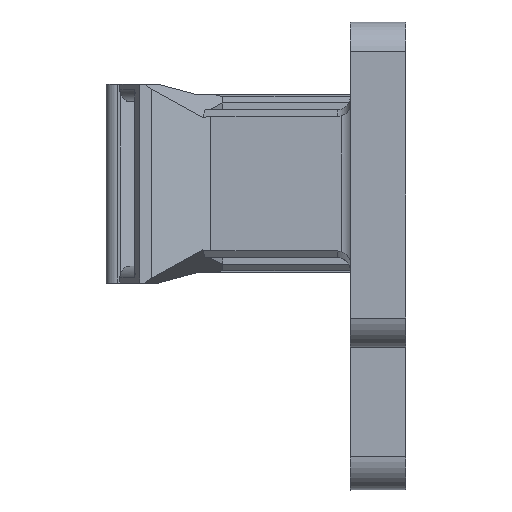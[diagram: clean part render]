
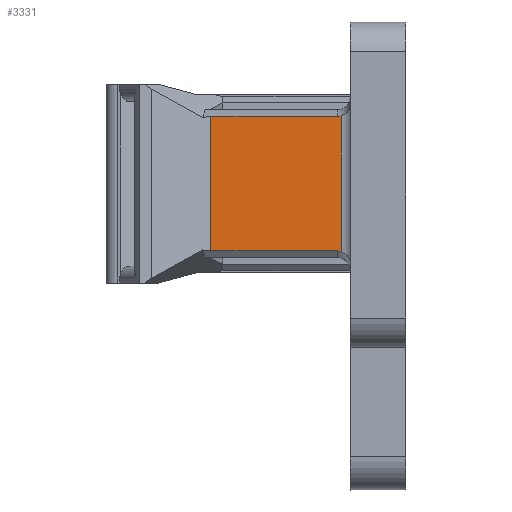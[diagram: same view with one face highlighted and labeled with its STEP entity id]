
A CAD part, left-side view. The second image highlights one B-rep face of the part: STEP entity #3331.
In plain terms, the highlighted planar face has unit normal (-1, 0, 0).
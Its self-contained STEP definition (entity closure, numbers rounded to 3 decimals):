
#23=ELLIPSE('',#3492,1.862,1.75);
#24=ELLIPSE('',#3497,1.862,1.75);
#263=PLANE('',#3655);
#387=FACE_OUTER_BOUND('',#588,.T.);
#588=EDGE_LOOP('',(#2819,#2820,#2821,#2822,#2823,#2824));
#683=LINE('',#4747,#1018);
#731=LINE('',#4961,#1066);
#915=LINE('',#5678,#1250);
#935=LINE('',#5771,#1270);
#1018=VECTOR('',#3759,1.75);
#1066=VECTOR('',#3927,10.);
#1250=VECTOR('',#4399,10.);
#1270=VECTOR('',#4451,10.);
#1368=VERTEX_POINT('',#4735);
#1369=VERTEX_POINT('',#4746);
#1460=VERTEX_POINT('',#4944);
#1465=VERTEX_POINT('',#4960);
#1468=VERTEX_POINT('',#4967);
#1678=VERTEX_POINT('',#5677);
#1691=EDGE_CURVE('',#1368,#1369,#683,.T.);
#1786=EDGE_CURVE('',#1369,#1460,#23,.T.);
#1794=EDGE_CURVE('',#1465,#1460,#731,.T.);
#1798=EDGE_CURVE('',#1468,#1368,#24,.T.);
#2072=EDGE_CURVE('',#1678,#1465,#915,.F.);
#2092=EDGE_CURVE('',#1678,#1468,#935,.T.);
#2819=ORIENTED_EDGE('',*,*,#1691,.F.);
#2820=ORIENTED_EDGE('',*,*,#1798,.F.);
#2821=ORIENTED_EDGE('',*,*,#2092,.F.);
#2822=ORIENTED_EDGE('',*,*,#2072,.T.);
#2823=ORIENTED_EDGE('',*,*,#1794,.T.);
#2824=ORIENTED_EDGE('',*,*,#1786,.F.);
#3331=ADVANCED_FACE('',(#387),#263,.T.);
#3492=AXIS2_PLACEMENT_3D('',#4945,#3912,#3913);
#3497=AXIS2_PLACEMENT_3D('',#4969,#3933,#3934);
#3655=AXIS2_PLACEMENT_3D('',#5770,#4449,#4450);
#3759=DIRECTION('',(0.,0.,-1.));
#3912=DIRECTION('center_axis',(-1.,0.,0.));
#3913=DIRECTION('ref_axis',(0.,0.,
1.));
#3927=DIRECTION('',(0.,-1.,0.));
#3933=DIRECTION('center_axis',(-1.,0.,0.));
#3934=DIRECTION('ref_axis',(0.,0.,-1.));
#4399=DIRECTION('',(0.,0.,1.));
#4449=DIRECTION('center_axis',(-1.,0.,0.));
#4450=DIRECTION('ref_axis',(0.,-1.,0.));
#4451=DIRECTION('',(0.,-1.,0.));
#4735=CARTESIAN_POINT('',(-29.98,14.586,40.588));
#4746=CARTESIAN_POINT('',(-29.98,14.586,22.248));
#4747=CARTESIAN_POINT('',(-29.98,14.586,5.837));
#4944=CARTESIAN_POINT('',(-29.98,15.099,22.329));
#4945=CARTESIAN_POINT('Origin',(-29.98,15.099,20.467));
#4960=CARTESIAN_POINT('',(-29.98,32.196,22.329));
#4961=CARTESIAN_POINT('',(-29.98,30.597,22.329));
#4967=CARTESIAN_POINT('',(-29.98,15.099,40.506));
#4969=CARTESIAN_POINT('Origin',(-29.98,15.099,42.368));
#5677=CARTESIAN_POINT('',(-29.98,32.196,40.506));
#5678=CARTESIAN_POINT('',(-29.98,32.196,31.418));
#5770=CARTESIAN_POINT('Origin',(-29.98,14.341,31.418));
#5771=CARTESIAN_POINT('',(-29.98,30.597,40.506));
